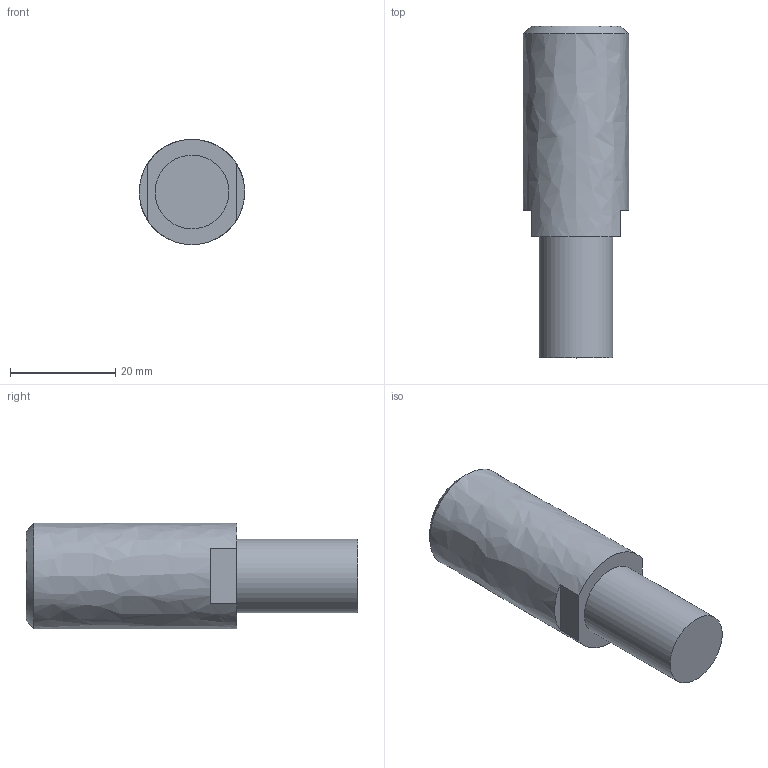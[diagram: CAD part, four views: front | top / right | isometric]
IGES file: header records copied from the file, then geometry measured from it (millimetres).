
Global section: file name: 1325_100_17F; native system: Autodesk Inventor 2014; preprocessor: unknown; author: A. Manieri; organization: Pneumax S.p.A.; date: 20161007.094001; units: millimetre
Bounding box: 20 x 63 x 20 mm (x, y, z)
Volume: 15933.8 mm3; surface area: 4089.8 mm2
Topology: 1 solids, 1 shells, 10 faces, 23 edges, 16 vertices
Faces by surface type: bspline 10
